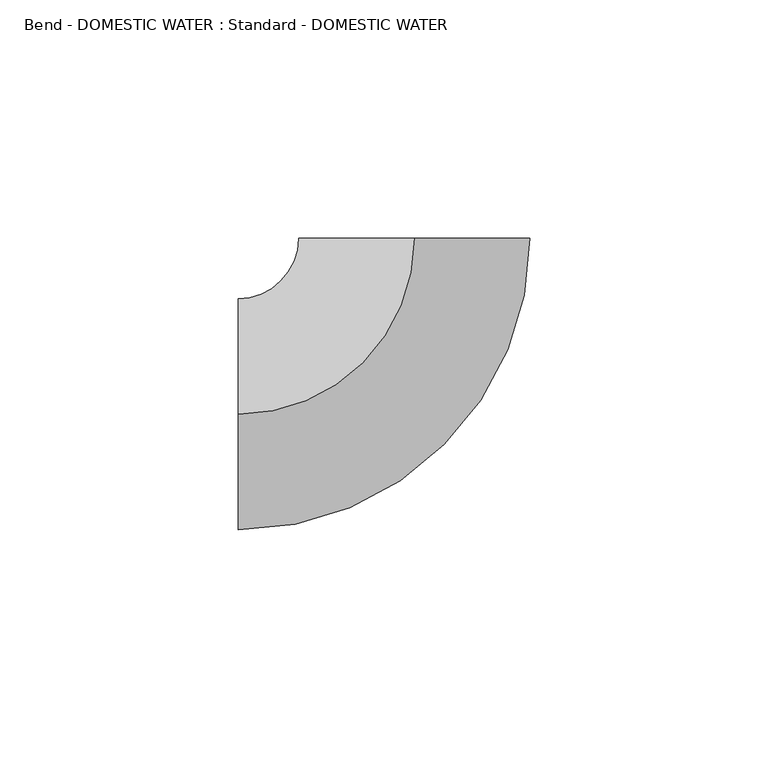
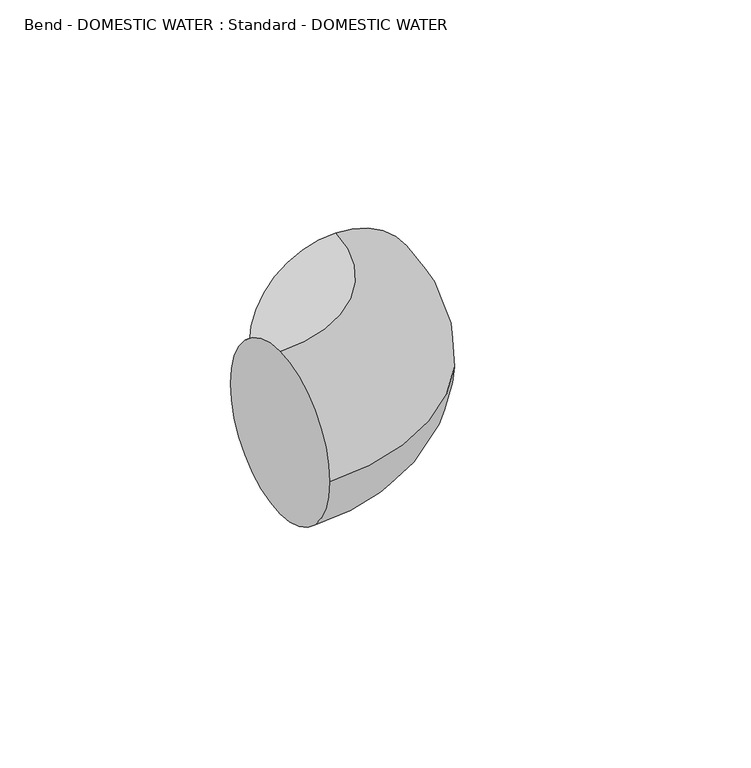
"""IFC4 building model written with IfcOpenShell, lengths in millimetres: pipe fitting geometry, Bend - DOMESTIC WATER : Standard - DOMESTIC WATER."""

from ifc_helpers import new_model, si_unit, point, frame, origin, place, context, project, spatial, circle_curve, ellipse_curve, trimmed, source, transform, mapped, element, save
from ifc_brep_helpers import plane_surface, revolved_surface, advanced_brep


def bend_domestic_water_standard_domestic_water_9156219b(model_context):
    return source(origin(), model_context, "Body", "AdvancedBrep", [
        advanced_brep(
        [(-36.957, 0.0, 24.257), (-36.957, 24.257, 0.0), (-36.957, 0.0, -24.257), (-36.957, -24.257, 0.0), (0.0, 36.957, 24.257), (24.257, 36.957, 0.0), (0.0, 36.957, -24.257), (-24.257, 36.957, 0.0)],
        [
            (0, 1, circle_curve(frame((-36.957, 0.0, 0.0), z_axis=(-1.0, 0.0, 0.0), x_axis=(0.0, 1.0, 0.0)), 24.257)),
            (1, 2, circle_curve(frame((-36.957, 0.0, 0.0), z_axis=(-1.0, 0.0, 0.0), x_axis=(0.0, 1.0, 0.0)), 24.257)),
            (2, 3, circle_curve(frame((-36.957, 0.0, 0.0), z_axis=(-1.0, 0.0, 0.0), x_axis=(0.0, 1.0, 0.0)), 24.257)),
            (3, 0, circle_curve(frame((-36.957, 0.0, 0.0), z_axis=(-1.0, 0.0, 0.0), x_axis=(0.0, 1.0, 0.0)), 24.257)),
            (4, 5, circle_curve(frame((0.0, 36.957, 0.0), z_axis=(0.0, 1.0, 0.0), x_axis=(-1.0, 0.0, 0.0)), 24.257)),
            (5, 6, circle_curve(frame((0.0, 36.957, 0.0), z_axis=(0.0, 1.0, 0.0), x_axis=(-1.0, 0.0, 0.0)), 24.257)),
            (6, 7, circle_curve(frame((0.0, 36.957, 0.0), z_axis=(0.0, 1.0, 0.0), x_axis=(-1.0, 0.0, 0.0)), 24.257)),
            (7, 4, circle_curve(frame((0.0, 36.957, 0.0), z_axis=(0.0, 1.0, 0.0), x_axis=(-1.0, 0.0, 0.0)), 24.257)),
            (7, 1, circle_curve(frame((-36.957, 36.957, 0.0), z_axis=(0.0, 0.0, -1.0), x_axis=(0.0, -1.0, 0.0)), 12.7)),
            (0, 4, circle_curve(frame((-36.957, 36.957, 24.257), z_axis=(0.0, 0.0, 1.0), x_axis=(0.0, -1.0, 0.0)), 36.957)),
            (6, 2, circle_curve(frame((-36.957, 36.957, -24.257), z_axis=(0.0, 0.0, -1.0), x_axis=(0.0, -1.0, 0.0)), 36.957)),
            (5, 3, circle_curve(frame((-36.957, 36.957, 0.0), z_axis=(0.0, 0.0, -1.0), x_axis=(0.0, -1.0, 0.0)), 61.214)),
        ],
        [
            plane_surface(frame((-36.957, 0.0, 0.0), z_axis=(-1.0, 0.0, 0.0), x_axis=(0.0, 0.0, 1.0))),
            plane_surface(frame((0.0, 36.957, 0.0), z_axis=(0.0, 1.0, 0.0), x_axis=(0.0, 0.0, 1.0))),
            revolved_surface(trimmed(ellipse_curve(frame((-36.957, 0.0, 0.0), z_axis=(-1.0, 0.0, 0.0), x_axis=(0.0, 1.0, 0.0)), 24.257, 24.257), [point((-36.957, 0.0, 24.257))], [point((-36.957, 24.257, 0.0))], True, "CARTESIAN"), (-36.957, 36.957, 0.0), (0.0, 0.0, 1.0)),
            revolved_surface(trimmed(ellipse_curve(frame((-36.957, 0.0, 0.0), z_axis=(-1.0, 0.0, 0.0), x_axis=(0.0, 1.0, 0.0)), 24.257, 24.257), [point((-36.957, 24.257, 0.0))], [point((-36.957, 0.0, -24.257))], True, "CARTESIAN"), (-36.957, 36.957, 0.0), (0.0, 0.0, 1.0)),
            revolved_surface(trimmed(ellipse_curve(frame((-36.957, 0.0, 0.0), z_axis=(-1.0, 0.0, 0.0), x_axis=(0.0, 1.0, 0.0)), 24.257, 24.257), [point((-36.957, 0.0, -24.257))], [point((-36.957, -24.257, 0.0))], True, "CARTESIAN"), (-36.957, 36.957, 0.0), (0.0, 0.0, 1.0)),
            revolved_surface(trimmed(ellipse_curve(frame((-36.957, 0.0, 0.0), z_axis=(-1.0, 0.0, 0.0), x_axis=(0.0, 1.0, 0.0)), 24.257, 24.257), [point((-36.957, -24.257, 0.0))], [point((-36.957, 0.0, 24.257))], True, "CARTESIAN"), (-36.957, 36.957, 0.0), (0.0, 0.0, 1.0)),
        ],
        [
            (0, [[1, 2, 3, 4]]),
            (1, [[5, 6, 7, 8]]),
            (2, [[9, -1, 10, -8]]),
            (3, [[11, -2, -9, -7]]),
            (4, [[12, -3, -11, -6]]),
            (5, [[-10, -4, -12, -5]]),
        ],
    ),
        advanced_brep(
        [(-36.957, 0.0, 24.257), (-36.957, 24.257, 0.0), (-36.957, 0.0, -24.257), (-36.957, -24.257, 0.0), (0.0, 36.957, 24.257), (24.257, 36.957, 0.0), (0.0, 36.957, -24.257), (-24.257, 36.957, 0.0)],
        [
            (0, 1, circle_curve(frame((-36.957, 0.0, 0.0), z_axis=(-1.0, 0.0, 0.0), x_axis=(0.0, 1.0, 0.0)), 24.257)),
            (1, 2, circle_curve(frame((-36.957, 0.0, 0.0), z_axis=(-1.0, 0.0, 0.0), x_axis=(0.0, 1.0, 0.0)), 24.257)),
            (2, 3, circle_curve(frame((-36.957, 0.0, 0.0), z_axis=(-1.0, 0.0, 0.0), x_axis=(0.0, 1.0, 0.0)), 24.257)),
            (3, 0, circle_curve(frame((-36.957, 0.0, 0.0), z_axis=(-1.0, 0.0, 0.0), x_axis=(0.0, 1.0, 0.0)), 24.257)),
            (4, 5, circle_curve(frame((0.0, 36.957, 0.0), z_axis=(0.0, 1.0, 0.0), x_axis=(-1.0, 0.0, 0.0)), 24.257)),
            (5, 6, circle_curve(frame((0.0, 36.957, 0.0), z_axis=(0.0, 1.0, 0.0), x_axis=(-1.0, 0.0, 0.0)), 24.257)),
            (6, 7, circle_curve(frame((0.0, 36.957, 0.0), z_axis=(0.0, 1.0, 0.0), x_axis=(-1.0, 0.0, 0.0)), 24.257)),
            (7, 4, circle_curve(frame((0.0, 36.957, 0.0), z_axis=(0.0, 1.0, 0.0), x_axis=(-1.0, 0.0, 0.0)), 24.257)),
            (7, 1, circle_curve(frame((-36.957, 36.957, 0.0), z_axis=(0.0, 0.0, -1.0), x_axis=(0.0, -1.0, 0.0)), 12.7)),
            (0, 4, circle_curve(frame((-36.957, 36.957, 24.257), z_axis=(0.0, 0.0, 1.0), x_axis=(0.0, -1.0, 0.0)), 36.957)),
            (6, 2, circle_curve(frame((-36.957, 36.957, -24.257), z_axis=(0.0, 0.0, -1.0), x_axis=(0.0, -1.0, 0.0)), 36.957)),
            (5, 3, circle_curve(frame((-36.957, 36.957, 0.0), z_axis=(0.0, 0.0, -1.0), x_axis=(0.0, -1.0, 0.0)), 61.214)),
        ],
        [
            plane_surface(frame((-36.957, 0.0, 0.0), z_axis=(-1.0, 0.0, 0.0), x_axis=(0.0, 0.0, 1.0))),
            plane_surface(frame((0.0, 36.957, 0.0), z_axis=(0.0, 1.0, 0.0), x_axis=(0.0, 0.0, 1.0))),
            revolved_surface(trimmed(ellipse_curve(frame((-36.957, 0.0, 0.0), z_axis=(-1.0, 0.0, 0.0), x_axis=(0.0, 1.0, 0.0)), 24.257, 24.257), [point((-36.957, 0.0, 24.257))], [point((-36.957, 24.257, 0.0))], True, "CARTESIAN"), (-36.957, 36.957, 0.0), (0.0, 0.0, 1.0)),
            revolved_surface(trimmed(ellipse_curve(frame((-36.957, 0.0, 0.0), z_axis=(-1.0, 0.0, 0.0), x_axis=(0.0, 1.0, 0.0)), 24.257, 24.257), [point((-36.957, 24.257, 0.0))], [point((-36.957, 0.0, -24.257))], True, "CARTESIAN"), (-36.957, 36.957, 0.0), (0.0, 0.0, 1.0)),
            revolved_surface(trimmed(ellipse_curve(frame((-36.957, 0.0, 0.0), z_axis=(-1.0, 0.0, 0.0), x_axis=(0.0, 1.0, 0.0)), 24.257, 24.257), [point((-36.957, 0.0, -24.257))], [point((-36.957, -24.257, 0.0))], True, "CARTESIAN"), (-36.957, 36.957, 0.0), (0.0, 0.0, 1.0)),
            revolved_surface(trimmed(ellipse_curve(frame((-36.957, 0.0, 0.0), z_axis=(-1.0, 0.0, 0.0), x_axis=(0.0, 1.0, 0.0)), 24.257, 24.257), [point((-36.957, -24.257, 0.0))], [point((-36.957, 0.0, 24.257))], True, "CARTESIAN"), (-36.957, 36.957, 0.0), (0.0, 0.0, 1.0)),
        ],
        [
            (0, [[1, 2, 3, 4]]),
            (1, [[5, 6, 7, 8]]),
            (2, [[9, -1, 10, -8]]),
            (3, [[11, -2, -9, -7]]),
            (4, [[12, -3, -11, -6]]),
            (5, [[-10, -4, -12, -5]]),
        ],
    ),
    ])


if __name__ == "__main__":
    model = new_model("IFC4")
    model_context = context("Model", 3, world=origin())
    ifc_project = project(units=[si_unit("LENGTHUNIT", "METRE", prefix="MILLI")], contexts=[model_context])
    site = spatial("IfcSite", under=ifc_project)
    building = spatial("IfcBuilding", under=site)
    placement = place(None, origin())
    bend_domestic_water_standard_domestic_water_shape = bend_domestic_water_standard_domestic_water_9156219b(model_context)
    element("IfcPipeFitting", 1, ObjectType="Bend - DOMESTIC WATER : Standard - DOMESTIC WATER", at=placement, inside=building, context=model_context, shape_type="MappedRepresentation", body=[
        mapped(bend_domestic_water_standard_domestic_water_shape, transform((0.0, 0.0, 0.0), x_axis=(1.0, 0.0, 0.0), y_axis=(0.0, 1.0, 0.0), z_axis=(0.0, 0.0, 1.0))),
    ])
    save(model, "model.ifc")
